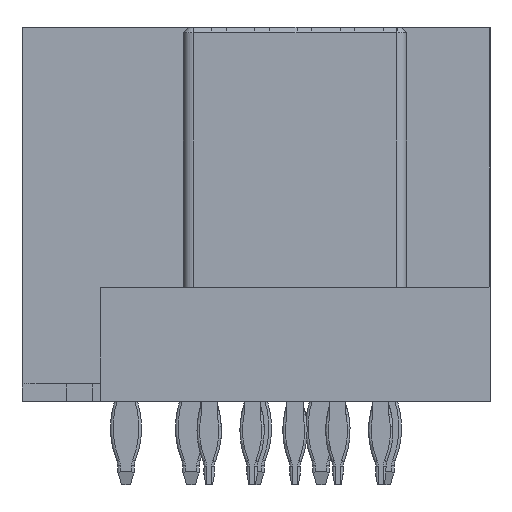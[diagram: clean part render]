
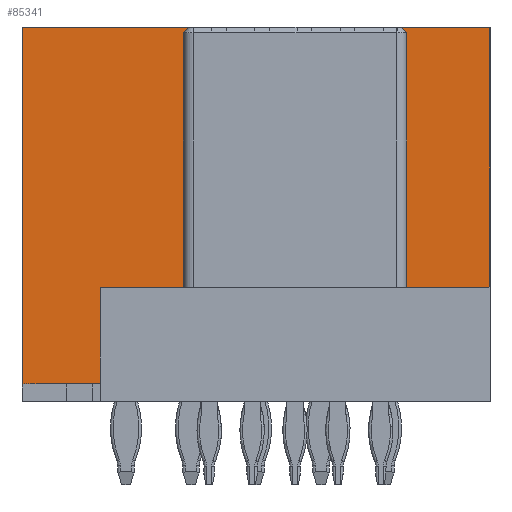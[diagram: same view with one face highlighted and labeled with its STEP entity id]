
A CAD part, left-side view. The second image highlights one B-rep face of the part: STEP entity #85341.
In plain terms, the highlighted planar face has unit normal (-1, 0, 0).
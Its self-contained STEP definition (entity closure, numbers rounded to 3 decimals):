
#1376 = EDGE_CURVE ( 'NONE', #154012, #53231, #13360, .T. ) ;
#1600 = EDGE_CURVE ( 'NONE', #53231, #153109, #13964, .T. ) ;
#1608 = EDGE_CURVE ( 'NONE', #153445, #153109, #13988, .T. ) ;
#1611 = EDGE_CURVE ( 'NONE', #153445, #152545, #13926, .T. ) ;
#1615 = EDGE_CURVE ( 'NONE', #152545, #153720, #13990, .T. ) ;
#1622 = EDGE_CURVE ( 'NONE', #154012, #153720, #14017, .T. ) ;
#13360 = LINE ( 'NONE', #13380, #36144 ) ;
#13380 = CARTESIAN_POINT ( 'NONE',  ( 1.046, -7.193, -5.381 ) ) ;
#13383 = DIRECTION ( 'NONE',  ( 0., -1., 0. ) ) ;
#13926 = LINE ( 'NONE', #14006, #36326 ) ;
#13964 = LINE ( 'NONE', #13968, #36320 ) ;
#13968 = CARTESIAN_POINT ( 'NONE',  ( 1.046, 9.687, -5.381 ) ) ;
#13971 = DIRECTION ( 'NONE',  ( 0., 0., 1. ) ) ;
#13988 = LINE ( 'NONE', #13993, #36325 ) ;
#13990 = LINE ( 'NONE', #14021, #36328 ) ;
#13993 = CARTESIAN_POINT ( 'NONE',  ( 1.046, 9.687, -1.671 ) ) ;
#13996 = DIRECTION ( 'NONE',  ( 0., 1., 0. ) ) ;
#14006 = CARTESIAN_POINT ( 'NONE',  ( 1.046, -5.313, -18.89 ) ) ;
#14013 = DIRECTION ( 'NONE',  ( 0., 0., 1. ) ) ;
#14017 = LINE ( 'NONE', #14055, #36335 ) ;
#14021 = CARTESIAN_POINT ( 'NONE',  ( 1.046, 9.687, 8.329 ) ) ;
#14026 = DIRECTION ( 'NONE',  ( 0., 1., 0. ) ) ;
#14055 = CARTESIAN_POINT ( 'NONE',  ( 1.046, 12.687, -18.89 ) ) ;
#14062 = DIRECTION ( 'NONE',  ( 0., 0., 1. ) ) ;
#16706 = CARTESIAN_POINT ( 'NONE',  ( 1.046, 9.687, -5.381 ) ) ;
#36144 = VECTOR ( 'NONE', #13383, 1000. ) ;
#36320 = VECTOR ( 'NONE', #13971, 1000. ) ;
#36325 = VECTOR ( 'NONE', #13996, 1000. ) ;
#36326 = VECTOR ( 'NONE', #14013, 1000. ) ;
#36328 = VECTOR ( 'NONE', #14026, 1000. ) ;
#36335 = VECTOR ( 'NONE', #14062, 1000. ) ;
#45601 = AXIS2_PLACEMENT_3D ( 'NONE', #158989, #158990, #158991 ) ;
#52464 = ORIENTED_EDGE ( 'NONE', *, *, #1608, .F. ) ;
#52795 = ORIENTED_EDGE ( 'NONE', *, *, #1376, .T. ) ;
#52994 = ORIENTED_EDGE ( 'NONE', *, *, #1600, .T. ) ;
#53231 = VERTEX_POINT ( 'NONE', #16706 ) ;
#59150 = EDGE_LOOP ( 'NONE', ( #52994, #52464, #152283, #153182, #153568, #52795 ) ) ;
#85341 = ADVANCED_FACE ( 'NONE', ( #158979 ), #158964, .F. ) ;
#102382 = CARTESIAN_POINT ( 'NONE',  ( 1.046, -5.313, 8.329 ) ) ;
#102695 = CARTESIAN_POINT ( 'NONE',  ( 1.046, 9.687, -1.671 ) ) ;
#102913 = CARTESIAN_POINT ( 'NONE',  ( 1.046, -5.313, -1.671 ) ) ;
#103125 = CARTESIAN_POINT ( 'NONE',  ( 1.046, 12.687, 8.329 ) ) ;
#103334 = CARTESIAN_POINT ( 'NONE',  ( 1.046, 12.687, -5.381 ) ) ;
#152283 = ORIENTED_EDGE ( 'NONE', *, *, #1611, .T. ) ;
#152545 = VERTEX_POINT ( 'NONE', #102382 ) ;
#153109 = VERTEX_POINT ( 'NONE', #102695 ) ;
#153182 = ORIENTED_EDGE ( 'NONE', *, *, #1615, .T. ) ;
#153445 = VERTEX_POINT ( 'NONE', #102913 ) ;
#153568 = ORIENTED_EDGE ( 'NONE', *, *, #1622, .F. ) ;
#153720 = VERTEX_POINT ( 'NONE', #103125 ) ;
#154012 = VERTEX_POINT ( 'NONE', #103334 ) ;
#158964 = PLANE ( 'NONE',  #45601 ) ;
#158979 = FACE_OUTER_BOUND ( 'NONE', #59150, .T. ) ;
#158989 = CARTESIAN_POINT ( 'NONE',  ( 1.046, 9.687, -18.89 ) ) ;
#158990 = DIRECTION ( 'NONE',  ( 1., 0., 0. ) ) ;
#158991 = DIRECTION ( 'NONE',  ( 0., 1., 0. ) ) ;
